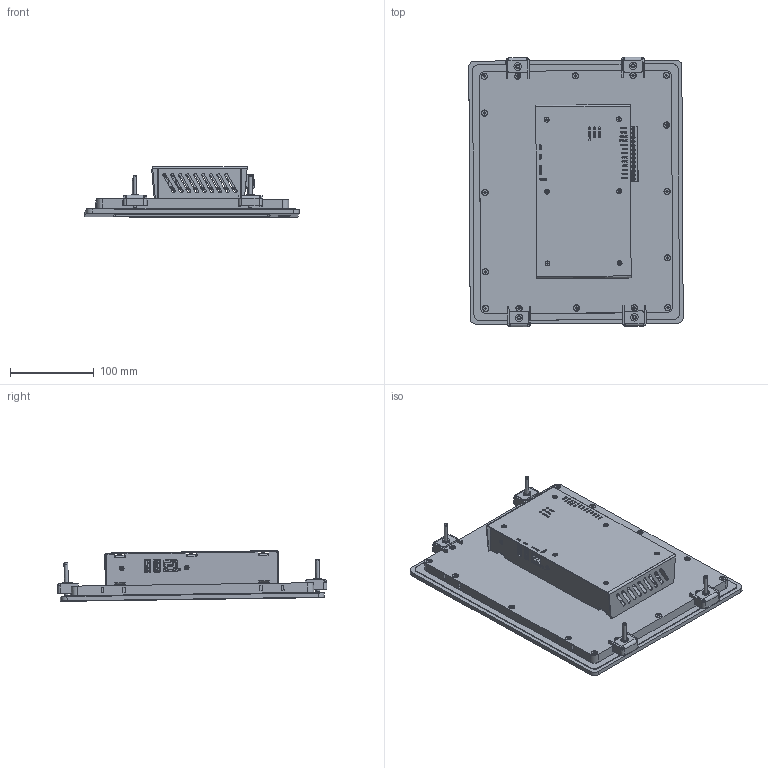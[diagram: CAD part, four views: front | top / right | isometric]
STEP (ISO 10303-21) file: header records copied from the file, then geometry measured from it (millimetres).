
FILE_DESCRIPTION(('STEP AP214'), '1');
FILE_NAME('NLcon-CED12 IP42_2', '', ('UNSPECIFIED'), ('UNSPECIFIED'), 'C3D Converter', 'C3D Toolkit', '');
FILE_SCHEMA(('AUTOMOTIVE_DESIGN { 1 0 10303 214 3 1 1}'));
Length unit declared in the file: millimetre
Assembly tree (10 placements, depth 3):
  (unnamed)
    (unnamed)
      (unnamed)
      (unnamed)
      (unnamed)  x2
      (unnamed)
    (unnamed)  x4
Bounding box: 256.62 x 322.93 x 60.76 mm (x, y, z)
Volume: 17196.7 mm3; surface area: 428498.5 mm2
Topology: 17 solids, 18 shells, 5292 faces, 14722 edges, 9775 vertices
Faces by surface type: plane 3747, cylinder 1023, extrusion 283, cone 124, torus 62, bspline 46, revolution 4, sphere 3
Full cylindrical faces by diameter (mm): 0.8 x15, 0.85 x4, 0.89 x8, 0.9 x24, 0.92 x8, 0.965 x7, 1 x4, 1.02 x4, 1.35 x8, 1.4 x5, 1.6 x15, 2.9 x1, 3 x29, 3.3 x2, 3.6 x1, 3.95 x14, 4 x28, 4.5 x16, 4.95 x10, 5 x4, 5.6 x6, 6 x4, 6.5 x4, 6.8 x16, 9 x4
Entity records: 225984 total; most frequent: CARTESIAN_POINT 65490, ORIENTED_EDGE 25997, DIRECTION 23188, EDGE_CURVE 13000, VECTOR 9538, LINE 9255, VERTEX_POINT 8885, AXIS2_PLACEMENT_3D 6823
